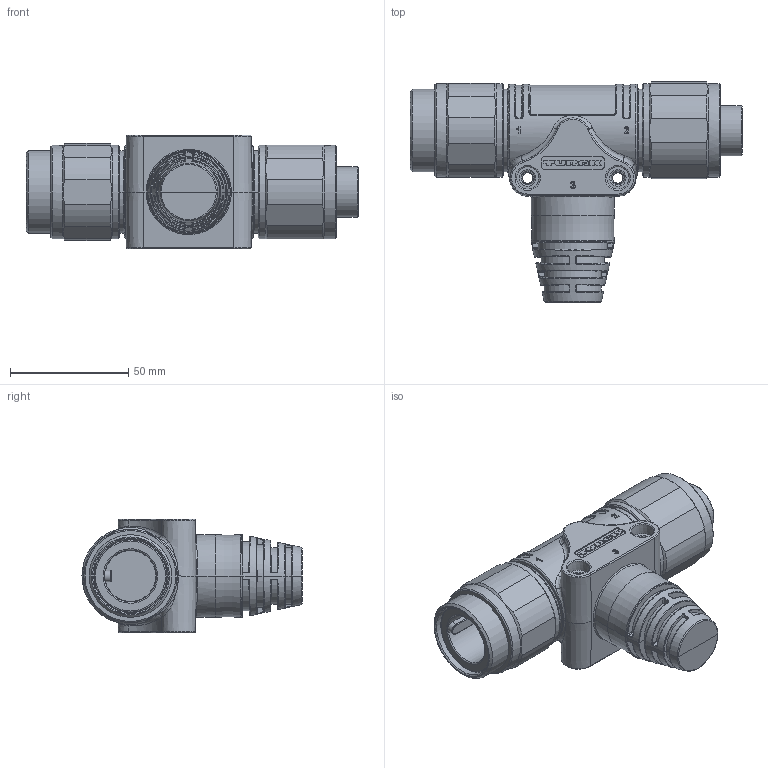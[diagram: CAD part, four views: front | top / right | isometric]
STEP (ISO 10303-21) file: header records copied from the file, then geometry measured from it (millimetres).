
FILE_DESCRIPTION(/* description */ ('PART (MM)'),/* implementation_level */ '2;1');
FILE_NAME(/* name */ 'L:\CAD Inventor\Workspace\Catalogs\CATALOG-TURCK CONNECTORS\GSDV-GKDV_CABLE.stp',/* time_stamp */ '2021-07-22T12:52:13-05:00',/* author */ ('RSwans'),/* organization */ (''),/* preprocessor_version */ 'ST-DEVELOPER v16.5',/* originating_system */ 'Autodesk Inventor 2017',/* authorisation */ '');
FILE_SCHEMA (('AUTOMOTIVE_DESIGN { 1 0 10303 214 3 1 1 }'));
Length unit declared in the file: millimetre
Products named in the file (1): Part7
Bounding box: 140.3 x 93.03 x 48 mm (x, y, z)
Volume: 187741.9 mm3; surface area: 52282 mm2
Topology: 3 solids, 12 shells, 1170 faces, 3019 edges, 1918 vertices
Faces by surface type: plane 573, cylinder 306, bspline 168, torus 74, cone 47, sphere 2
Full cylindrical faces by diameter (mm): 4.4 x4, 4.95 x4, 24 x3, 24.05 x1, 24.9 x2, 26.5 x7, 28.05 x1, 30.6 x2, 31 x1, 32 x1, 33.1 x2, 34.7 x2, 34.925 x2, 37.95 x2, 39.4 x4
Entity records: 41408 total; most frequent: CARTESIAN_POINT 13114, ORIENTED_EDGE 5806, DIRECTION 5174, EDGE_CURVE 2903, VERTEX_POINT 1895, AXIS2_PLACEMENT_3D 1738, LINE 1698, VECTOR 1698
